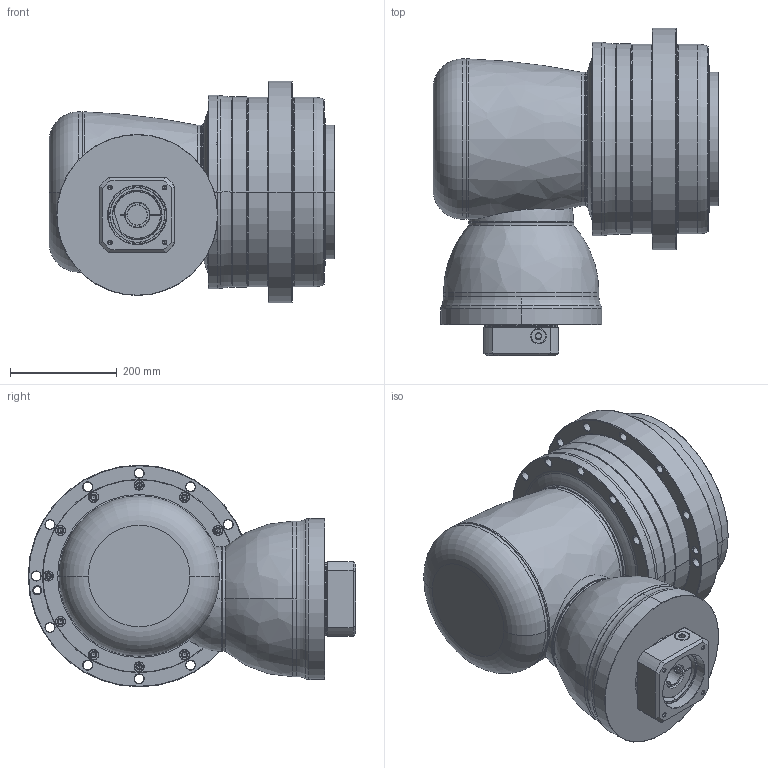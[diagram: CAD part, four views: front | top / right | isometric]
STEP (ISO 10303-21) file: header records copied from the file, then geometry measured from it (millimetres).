
FILE_DESCRIPTION((''),'2;1');
FILE_NAME('AHK355_2ST_38-P0409900101_ASM','2016-08-24T',('d01943'),(''),'PRO/ENGINEER BY PARAMETRIC TECHNOLOGY CORPORATION, 2008410','PRO/ENGINEER BY PARAMETRIC TECHNOLOGY CORPORATION, 2008410','');
FILE_SCHEMA(('CONFIG_CONTROL_DESIGN'));
Length unit declared in the file: millimetre
Products named in the file (12): P1008800002; P1831100001; P0276100003; P0357100003; P1315800001; P1007800001; P1318800101; P0409900101; P0503900012; P0912801201; 21711422019; AHK355_2ST_38-P0409900101_ASM
Assembly tree (11 placements, depth 2):
  AHK355_2ST_38-P0409900101_ASM
    P1008800002
    P1831100001
    P0276100003
    P0357100003
    P1315800001
    P1007800001
    P1318800101
    P0409900101
    P0503900012
    P0912801201
    21711422019
Bounding box: 535 x 613 x 415 mm (x, y, z)
Volume: 43651099.8 mm3; surface area: 2304480.5 mm2
Topology: 12 solids, 12 shells, 958 faces, 2127 edges, 1229 vertices
Faces by surface type: cylinder 341, cone 336, torus 130, plane 125, bspline 24, sphere 2
Entity records: 31567 total; most frequent: CARTESIAN_POINT 9633, DIRECTION 5075, ORIENTED_EDGE 4138, AXIS2_PLACEMENT_3D 2165, EDGE_CURVE 2069, VERTEX_POINT 1229, CIRCLE 1208, EDGE_LOOP 1154
